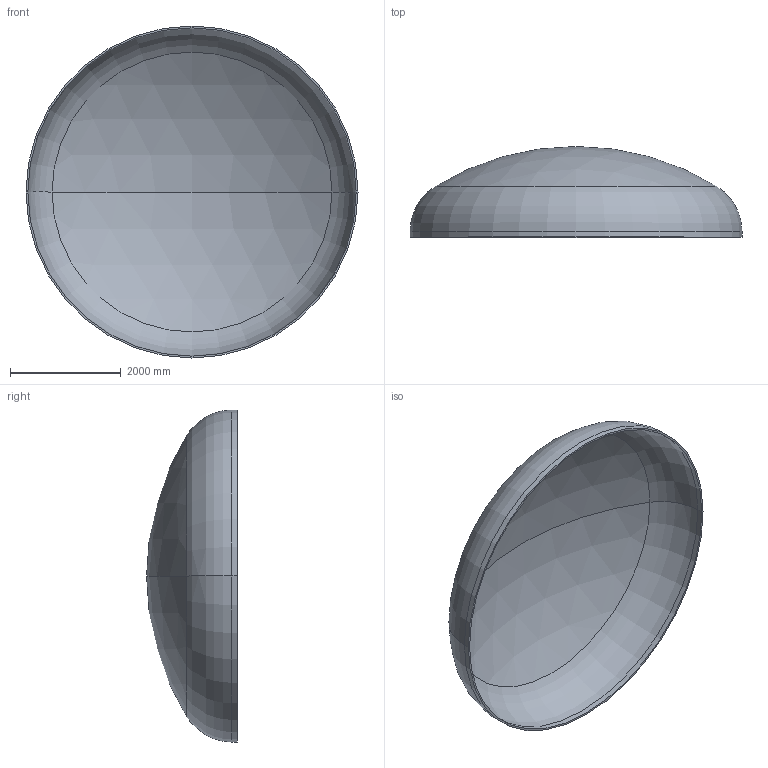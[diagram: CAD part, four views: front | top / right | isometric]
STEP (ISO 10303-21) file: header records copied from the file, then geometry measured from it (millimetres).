
FILE_DESCRIPTION (( 'STEP AP203' ), '1' );
FILE_NAME ('DIN 28013 Korbbogenform_-_Boden DIN 28013 - 6000 x 100 - I - s=33.step', '2016-07-04T10:36:36', ( '' ), ( '' ), 'SwSTEP 2.0', 'SolidWorks 2013', '' );
FILE_SCHEMA (( 'CONFIG_CONTROL_DESIGN' ));
Length unit declared in the file: millimetre
Products named in the file (1): DIN 28013 Korbbogenform_-_Boden DIN 28013 - 6000 x 100 - I - s=33
Bounding box: 6000 x 1639.69 x 6000 mm (x, y, z)
Volume: 1345071297 mm3; surface area: 82140335.5 mm2
Topology: 1 solids, 1 shells, 13 faces, 24 edges, 14 vertices
Faces by surface type: torus 4, cylinder 4, sphere 4, plane 1
Entity records: 407 total; most frequent: DIRECTION 72, CARTESIAN_POINT 52, ORIENTED_EDGE 48, AXIS2_PLACEMENT_3D 34, EDGE_CURVE 24, CIRCLE 20, VERTEX_POINT 14, EDGE_LOOP 14
